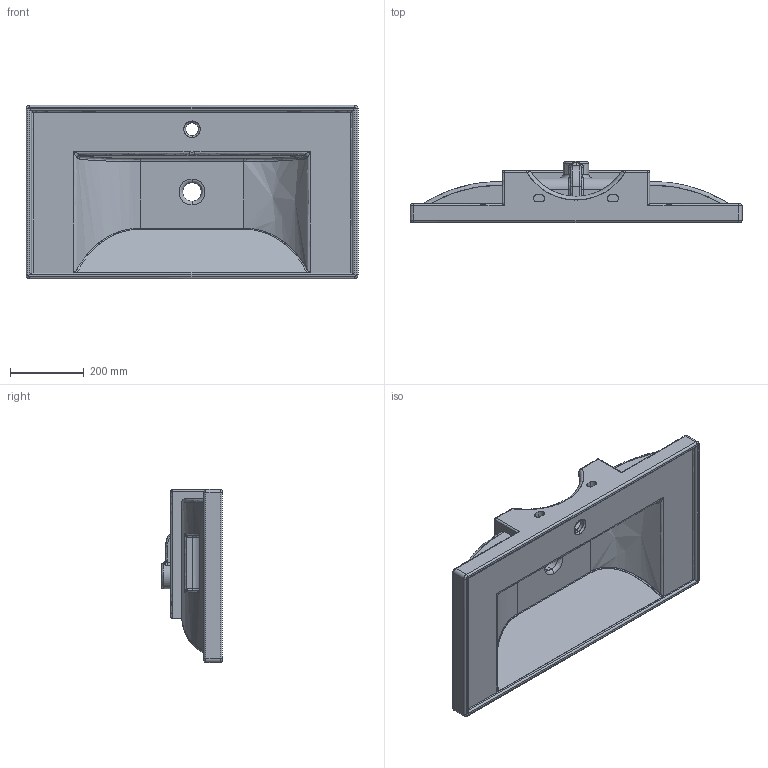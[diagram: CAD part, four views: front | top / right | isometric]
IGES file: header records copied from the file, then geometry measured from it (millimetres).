
Start section: Comment
Global section: file name: ML 90x47.igs; native system:  By UGS Corp.; preprocessor: XPlus GENERIC/IGES 3.0; author: Author; organization: Title; date: 20110701.155330; units: millimetre
Bounding box: 900 x 165 x 470 mm (x, y, z)
Surface area: 1307413.3 mm2 (no closed solid volume)
Topology: 0 solids, 0 shells, 219 faces, 1054 edges, 1040 vertices
Faces by surface type: bspline 219
